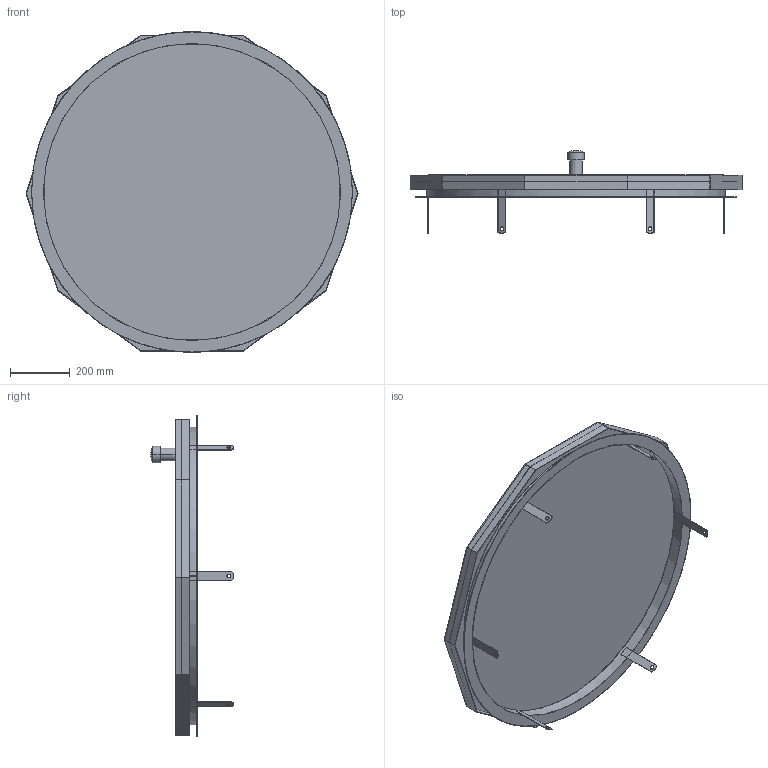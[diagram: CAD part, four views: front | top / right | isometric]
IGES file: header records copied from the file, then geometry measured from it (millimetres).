
Start section:  PTC IGES file: 017_000107.igs
Global section: file name: 017_000107.igs; native system: Creo Parametric by Parametric Technology Corporation; preprocessor: 2017170; author: wj; organization: Unknown; date: 20180906.124256; units: millimetre
Bounding box: 1112.45 x 277.25 x 1074.29 mm (x, y, z)
Surface area: 4518309.1 mm2 (no closed solid volume)
Topology: 0 solids, 0 shells, 99 faces, 534 edges, 532 vertices
Faces by surface type: bspline 69, revolution 30
